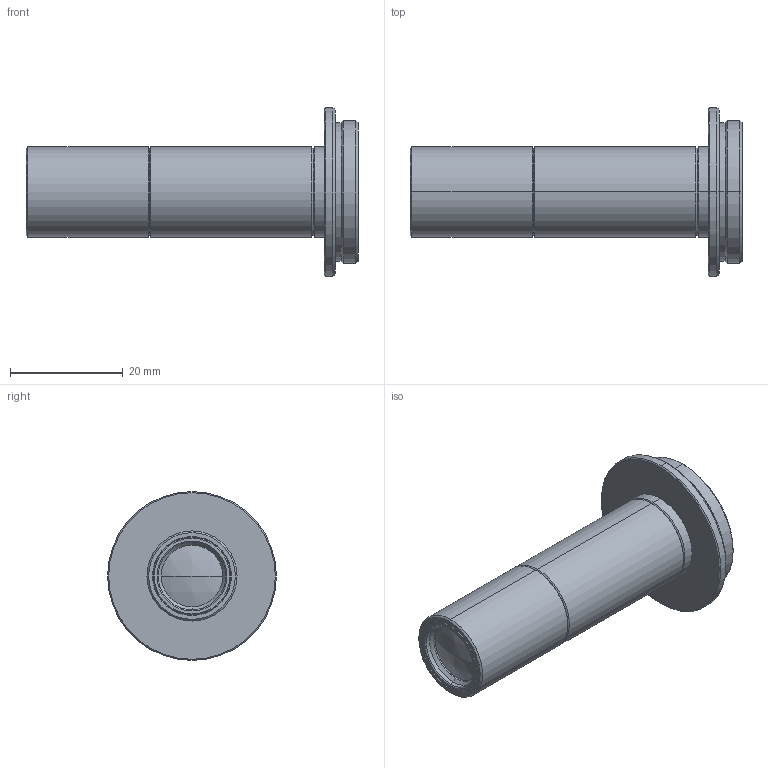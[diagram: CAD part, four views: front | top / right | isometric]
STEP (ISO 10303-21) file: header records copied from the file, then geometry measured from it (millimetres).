
FILE_DESCRIPTION (( 'STEP AP203' ), '1' );
FILE_NAME ('VS-MC05-130.STEP', '2020-03-23T01:07:02', ( '' ), ( '' ), 'SwSTEP 2.0', 'SolidWorks 2018', '' );
FILE_SCHEMA (( 'CONFIG_CONTROL_DESIGN' ));
Length unit declared in the file: millimetre
Products named in the file (1): VS-MC05-130
Bounding box: 58.98 x 30 x 30 mm (x, y, z)
Volume: 7841.6 mm3; surface area: 6544.2 mm2
Topology: 1 solids, 1 shells, 90 faces, 182 edges, 104 vertices
Faces by surface type: cone 48, cylinder 28, plane 10, sphere 4
Entity records: 2413 total; most frequent: DIRECTION 470, CARTESIAN_POINT 377, ORIENTED_EDGE 364, AXIS2_PLACEMENT_3D 197, EDGE_CURVE 182, CIRCLE 106, VERTEX_POINT 104, EDGE_LOOP 100
